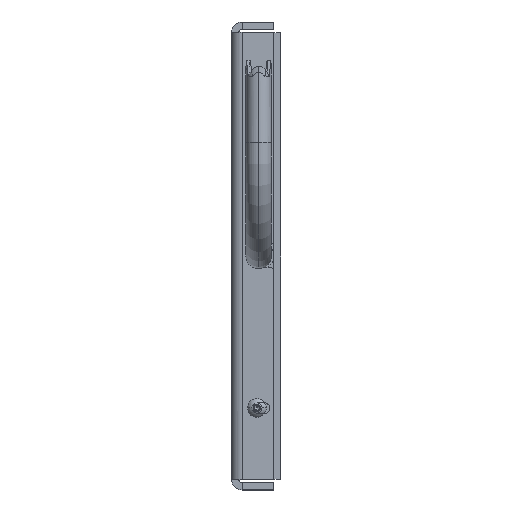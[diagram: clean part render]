
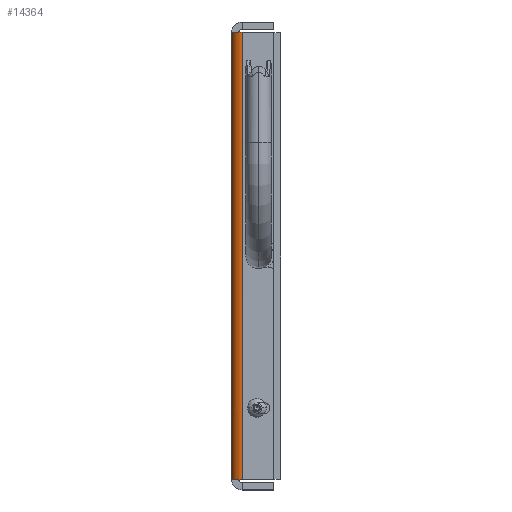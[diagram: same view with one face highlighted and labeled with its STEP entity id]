
A CAD part, left-side view. The second image highlights one B-rep face of the part: STEP entity #14364.
In plain terms, the highlighted cylindrical face has radius 2.337 mm (diameter 4.674 mm), a partial arc.
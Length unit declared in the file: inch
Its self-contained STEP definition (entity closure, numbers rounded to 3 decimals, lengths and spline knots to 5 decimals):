
#545 = VECTOR ( 'NONE', #33724, 39.37008 ) ;
#943 = CARTESIAN_POINT ( 'NONE',  ( -4.02661, 0.00492, -1.97047 ) ) ;
#3951 = CARTESIAN_POINT ( 'NONE',  ( -3.94904, -0.063, 1.9696 ) ) ;
#5883 = CARTESIAN_POINT ( 'NONE',  ( -3.937, -0.063, -1.9695 ) ) ;
#6132 = CARTESIAN_POINT ( 'NONE',  ( -4.029, 0.029, -1.97066 ) ) ;
#6426 = ORIENTED_EDGE ( 'NONE', *, *, #10587, .T. ) ;
#6897 = CARTESIAN_POINT ( 'NONE',  ( -4.029, 0.029, -1.9695 ) ) ;
#7657 = CARTESIAN_POINT ( 'NONE',  ( -4.01057, -0.02754, -1.97018 ) ) ;
#7813 = CARTESIAN_POINT ( 'NONE',  ( -4.029, 0.01696, -1.97056 ) ) ;
#7901 = ORIENTED_EDGE ( 'NONE', *, *, #23475, .T. ) ;
#8116 = ORIENTED_EDGE ( 'NONE', *, *, #10863, .T. ) ;
#8176 = CARTESIAN_POINT ( 'NONE',  ( -3.94904, -0.063, -1.9696 ) ) ;
#9111 = CARTESIAN_POINT ( 'NONE',  ( -4.01739, -0.01733, -1.97027 ) ) ;
#9256 = CARTESIAN_POINT ( 'NONE',  ( -3.96108, -0.06061, 1.96969 ) ) ;
#9365 = CARTESIAN_POINT ( 'NONE',  ( -3.937, 0.029, 3.94297 ) ) ;
#9572 = EDGE_CURVE ( 'NONE', #32384, #12770, #30990, .T. ) ;
#10587 = EDGE_CURVE ( 'NONE', #12770, #34070, #15923, .T. ) ;
#10601 = VECTOR ( 'NONE', #19139, 39.37008 ) ;
#10688 = FACE_OUTER_BOUND ( 'NONE', #20067, .T. ) ;
#10697 = CARTESIAN_POINT ( 'NONE',  ( -4.029, 0.029, -1.97066 ) ) ;
#10863 = EDGE_CURVE ( 'NONE', #34070, #11279, #12322, .T. ) ;
#11279 = VERTEX_POINT ( 'NONE', #20767 ) ;
#12031 = CARTESIAN_POINT ( 'NONE',  ( -4.02661, 0.00492, 1.97047 ) ) ;
#12040 = DIRECTION ( 'NONE',  ( 0., 0., -1. ) ) ;
#12322 = LINE ( 'NONE', #19258, #10601 ) ;
#12770 = VERTEX_POINT ( 'NONE', #6132 ) ;
#14364 = ADVANCED_FACE ( 'NONE', ( #10688 ), #25030, .T. ) ;
#14747 = CARTESIAN_POINT ( 'NONE',  ( -4.029, 0.029, 1.97066 ) ) ;
#15700 = CARTESIAN_POINT ( 'NONE',  ( -3.937, -0.063, -1.9695 ) ) ;
#15923 = B_SPLINE_CURVE_WITH_KNOTS ( 'NONE', 3,
 ( #10697, #7813, #943, #9111, #7657, #21348, #24281, #34875, #8176, #15700 ),
 .UNSPECIFIED., .F., .F.,
 ( 4, 2, 2, 2, 4 ),
 ( 0., 0.25, 0.5, 0.75, 1. ),
 .UNSPECIFIED. ) ;
#17065 = ORIENTED_EDGE ( 'NONE', *, *, #9572, .T. ) ;
#17371 = CARTESIAN_POINT ( 'NONE',  ( -3.937, -0.063, 1.9695 ) ) ;
#17599 = CARTESIAN_POINT ( 'NONE',  ( -4.01057, -0.02754, 1.97018 ) ) ;
#18017 = AXIS2_PLACEMENT_3D ( 'NONE', #9365, #12040, #23446 ) ;
#19139 = DIRECTION ( 'NONE',  ( 0., 0., 1. ) ) ;
#19258 = CARTESIAN_POINT ( 'NONE',  ( -3.937, -0.063, -1.9695 ) ) ;
#20067 = EDGE_LOOP ( 'NONE', ( #8116, #7901, #17065, #6426 ) ) ;
#20767 = CARTESIAN_POINT ( 'NONE',  ( -3.937, -0.063, 1.9695 ) ) ;
#21348 = CARTESIAN_POINT ( 'NONE',  ( -3.99354, -0.04457, -1.96998 ) ) ;
#22763 = CARTESIAN_POINT ( 'NONE',  ( -3.99354, -0.04457, 1.96998 ) ) ;
#23446 = DIRECTION ( 'NONE',  ( -1., 0., 0. ) ) ;
#23475 = EDGE_CURVE ( 'NONE', #11279, #32384, #34126, .T. ) ;
#24281 = CARTESIAN_POINT ( 'NONE',  ( -3.98333, -0.05139, -1.96989 ) ) ;
#25030 = CYLINDRICAL_SURFACE ( 'NONE', #18017, 0.092 ) ;
#25210 = CARTESIAN_POINT ( 'NONE',  ( -4.029, 0.029, 1.97066 ) ) ;
#25477 = CARTESIAN_POINT ( 'NONE',  ( -4.01739, -0.01733, 1.97027 ) ) ;
#30955 = CARTESIAN_POINT ( 'NONE',  ( -4.029, 0.01696, 1.97056 ) ) ;
#30990 = LINE ( 'NONE', #6897, #545 ) ;
#31182 = CARTESIAN_POINT ( 'NONE',  ( -3.98333, -0.05139, 1.96989 ) ) ;
#32384 = VERTEX_POINT ( 'NONE', #25210 ) ;
#33724 = DIRECTION ( 'NONE',  ( 0., 0., -1. ) ) ;
#34070 = VERTEX_POINT ( 'NONE', #5883 ) ;
#34126 = B_SPLINE_CURVE_WITH_KNOTS ( 'NONE', 3,
 ( #17371, #3951, #9256, #31182, #22763, #17599, #25477, #12031, #30955, #14747 ),
 .UNSPECIFIED., .F., .F.,
 ( 4, 2, 2, 2, 4 ),
 ( 0., 0.25, 0.5, 0.75, 1. ),
 .UNSPECIFIED. ) ;
#34875 = CARTESIAN_POINT ( 'NONE',  ( -3.96108, -0.06061, -1.96969 ) ) ;
